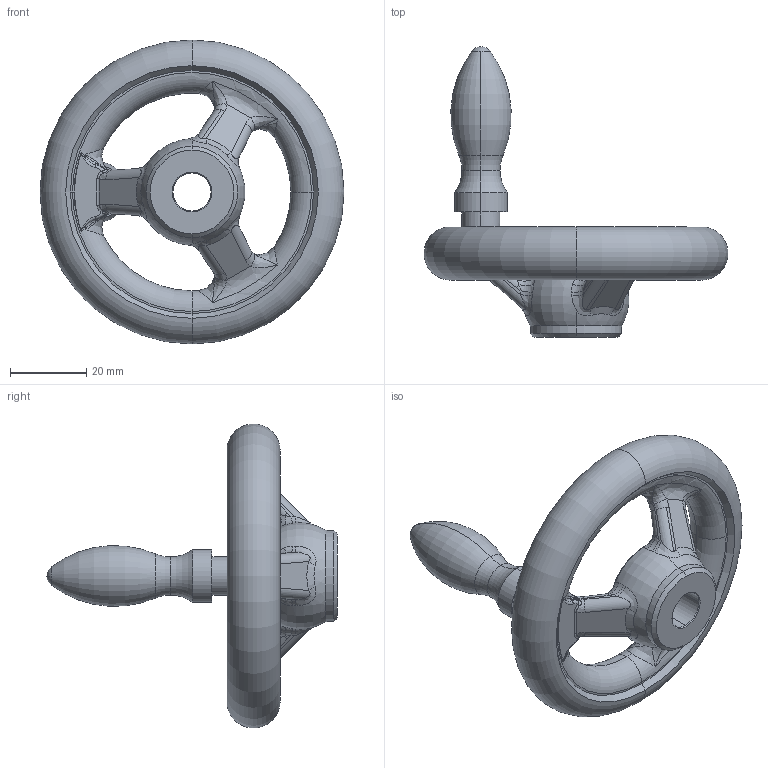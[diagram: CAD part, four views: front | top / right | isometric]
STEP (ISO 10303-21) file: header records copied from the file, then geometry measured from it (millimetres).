
FILE_DESCRIPTION (( 'STEP AP203' ), '1' );
FILE_NAME ('din950_d4_80x10.step', '2010-03-23T10:20:48', ( '_' ), ( '_' ), 'SwSTEP 2.0', 'SolidWorks 2010', '' );
FILE_SCHEMA (( 'CONFIG_CONTROL_DESIGN' ));
Length unit declared in the file: millimetre
Products named in the file (1): din950_d4_80x10
Bounding box: 79.99 x 76.5 x 79.99 mm (x, y, z)
Volume: 47000.8 mm3; surface area: 14720.3 mm2
Topology: 1 solids, 1 shells, 204 faces, 499 edges, 280 vertices
Faces by surface type: bspline 109, torus 33, cylinder 28, plane 18, cone 14, sphere 2
Entity records: 23587 total; most frequent: CARTESIAN_POINT 19385, ORIENTED_EDGE 974, DIRECTION 698, EDGE_CURVE 487, AXIS2_PLACEMENT_3D 323, VERTEX_POINT 280, CIRCLE 227, EDGE_LOOP 207
